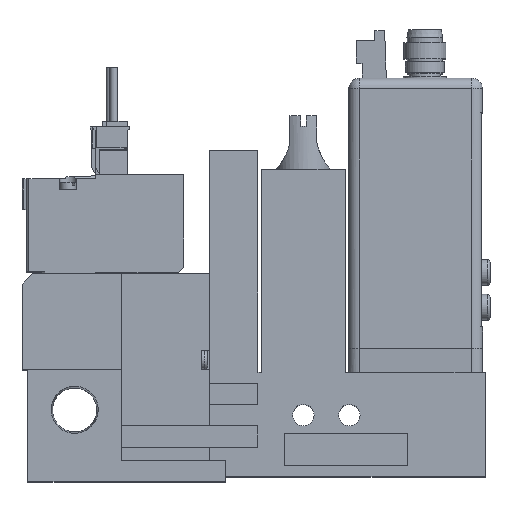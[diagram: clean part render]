
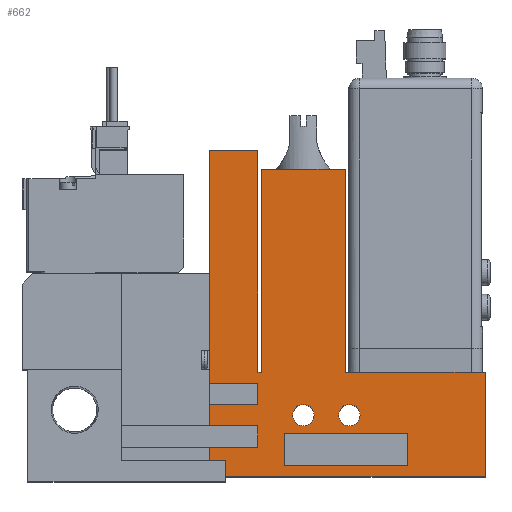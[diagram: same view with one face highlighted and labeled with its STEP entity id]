
A CAD part, top view. The second image highlights one B-rep face of the part: STEP entity #662.
In plain terms, the highlighted planar face has unit normal (0, 0, 1).
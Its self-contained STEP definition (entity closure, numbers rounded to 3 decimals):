
#662=ADVANCED_FACE('',(#2127,#2128,#2129,#2130),#2131,.T.);
#2127=FACE_OUTER_BOUND('',#4844,.T.);
#2128=FACE_BOUND('',#4845,.T.);
#2129=FACE_BOUND('',#4846,.T.);
#2130=FACE_BOUND('',#4847,.T.);
#2131=PLANE('',#4848);
#4844=EDGE_LOOP('',(#9159,#9160,#9161,#9162,#9163,#9164,#9165,#9166,#9167,#9168,#9169,#9170,#9171,#9172,#9173,#9174,#9175,#9176));
#4845=EDGE_LOOP('',(#9177,#9178,#9179,#9180));
#4846=EDGE_LOOP('',(#9181));
#4847=EDGE_LOOP('',(#9182));
#4848=AXIS2_PLACEMENT_3D('',#9183,#9184,#9185);
#9159=ORIENTED_EDGE('',*,*,#17231,.T.);
#9160=ORIENTED_EDGE('',*,*,#17254,.T.);
#9161=ORIENTED_EDGE('',*,*,#17255,.T.);
#9162=ORIENTED_EDGE('',*,*,#17256,.T.);
#9163=ORIENTED_EDGE('',*,*,#17257,.T.);
#9164=ORIENTED_EDGE('',*,*,#17258,.T.);
#9165=ORIENTED_EDGE('',*,*,#17244,.T.);
#9166=ORIENTED_EDGE('',*,*,#17259,.T.);
#9167=ORIENTED_EDGE('',*,*,#17260,.T.);
#9168=ORIENTED_EDGE('',*,*,#17261,.T.);
#9169=ORIENTED_EDGE('',*,*,#17262,.T.);
#9170=ORIENTED_EDGE('',*,*,#17263,.T.);
#9171=ORIENTED_EDGE('',*,*,#17264,.T.);
#9172=ORIENTED_EDGE('',*,*,#17265,.T.);
#9173=ORIENTED_EDGE('',*,*,#17266,.T.);
#9174=ORIENTED_EDGE('',*,*,#17267,.T.);
#9175=ORIENTED_EDGE('',*,*,#17215,.T.);
#9176=ORIENTED_EDGE('',*,*,#17211,.T.);
#9177=ORIENTED_EDGE('',*,*,#17268,.T.);
#9178=ORIENTED_EDGE('',*,*,#17269,.T.);
#9179=ORIENTED_EDGE('',*,*,#17270,.T.);
#9180=ORIENTED_EDGE('',*,*,#17271,.T.);
#9181=ORIENTED_EDGE('',*,*,#17272,.T.);
#9182=ORIENTED_EDGE('',*,*,#17240,.T.);
#9183=CARTESIAN_POINT('',(0.0,0.0,10.0));
#9184=DIRECTION('',(0.0,0.0,1.0));
#9185=DIRECTION('',(1.0,0.0,0.0));
#17211=EDGE_CURVE('',#20915,#20913,#20916,.T.);
#17215=EDGE_CURVE('',#20922,#20915,#20923,.T.);
#17231=EDGE_CURVE('',#20913,#20951,#20953,.T.);
#17240=EDGE_CURVE('',#20969,#20969,#20970,.T.);
#17244=EDGE_CURVE('',#20971,#20976,#20978,.T.);
#17254=EDGE_CURVE('',#20951,#20995,#20996,.T.);
#17255=EDGE_CURVE('',#20995,#20997,#20998,.T.);
#17256=EDGE_CURVE('',#20997,#20999,#21000,.T.);
#17257=EDGE_CURVE('',#20999,#21001,#21002,.T.);
#17258=EDGE_CURVE('',#21001,#20971,#21003,.T.);
#17259=EDGE_CURVE('',#20976,#21004,#21005,.T.);
#17260=EDGE_CURVE('',#21004,#21006,#21007,.T.);
#17261=EDGE_CURVE('',#21006,#21008,#21009,.T.);
#17262=EDGE_CURVE('',#21008,#21010,#21011,.T.);
#17263=EDGE_CURVE('',#21010,#21012,#21013,.T.);
#17264=EDGE_CURVE('',#21012,#21014,#21015,.T.);
#17265=EDGE_CURVE('',#21014,#21016,#21017,.T.);
#17266=EDGE_CURVE('',#21016,#21018,#21019,.T.);
#17267=EDGE_CURVE('',#21018,#20922,#21020,.T.);
#17268=EDGE_CURVE('',#21021,#21022,#21023,.T.);
#17269=EDGE_CURVE('',#21022,#21024,#21025,.T.);
#17270=EDGE_CURVE('',#21024,#21026,#21027,.T.);
#17271=EDGE_CURVE('',#21026,#21021,#21028,.T.);
#17272=EDGE_CURVE('',#21029,#21029,#21030,.T.);
#20913=VERTEX_POINT('',#26533);
#20915=VERTEX_POINT('',#26536);
#20916=LINE('',#26537,#26538);
#20922=VERTEX_POINT('',#26546);
#20923=LINE('',#26547,#26548);
#20951=VERTEX_POINT('',#26590);
#20953=LINE('',#26593,#26594);
#20969=VERTEX_POINT('',#26615);
#20970=CIRCLE('',#26616,2.0);
#20971=VERTEX_POINT('',#26617);
#20976=VERTEX_POINT('',#26624);
#20978=LINE('',#26627,#26628);
#20995=VERTEX_POINT('',#26651);
#20996=LINE('',#26652,#26653);
#20997=VERTEX_POINT('',#26654);
#20998=LINE('',#26655,#26656);
#20999=VERTEX_POINT('',#26657);
#21000=LINE('',#26658,#26659);
#21001=VERTEX_POINT('',#26660);
#21002=LINE('',#26661,#26662);
#21003=LINE('',#26663,#26664);
#21004=VERTEX_POINT('',#26665);
#21005=LINE('',#26666,#26667);
#21006=VERTEX_POINT('',#26668);
#21007=LINE('',#26669,#26670);
#21008=VERTEX_POINT('',#26671);
#21009=LINE('',#26672,#26673);
#21010=VERTEX_POINT('',#26674);
#21011=LINE('',#26675,#26676);
#21012=VERTEX_POINT('',#26677);
#21013=LINE('',#26678,#26679);
#21014=VERTEX_POINT('',#26680);
#21015=LINE('',#26681,#26682);
#21016=VERTEX_POINT('',#26683);
#21017=LINE('',#26684,#26685);
#21018=VERTEX_POINT('',#26686);
#21019=LINE('',#26687,#26688);
#21020=LINE('',#26689,#26690);
#21021=VERTEX_POINT('',#26691);
#21022=VERTEX_POINT('',#26692);
#21023=LINE('',#26693,#26694);
#21024=VERTEX_POINT('',#26695);
#21025=LINE('',#26696,#26697);
#21026=VERTEX_POINT('',#26698);
#21027=LINE('',#26699,#26700);
#21028=LINE('',#26701,#26702);
#21029=VERTEX_POINT('',#26703);
#21030=CIRCLE('',#26704,2.0);
#26533=CARTESIAN_POINT('',(35.1,61.0,10.0));
#26536=CARTESIAN_POINT('',(44.1,61.0,10.0));
#26537=CARTESIAN_POINT('',(44.1,61.0,10.0));
#26538=VECTOR('',#33399,1.0);
#26546=CARTESIAN_POINT('',(44.1,19.5,10.0));
#26547=CARTESIAN_POINT('',(44.1,19.5,10.0));
#26548=VECTOR('',#33405,1.0);
#26590=CARTESIAN_POINT('',(35.1,17.5,10.0));
#26593=CARTESIAN_POINT('',(35.1,61.0,10.0));
#26594=VECTOR('',#33421,1.0);
#26615=CARTESIAN_POINT('',(63.2,11.5,10.0));
#26616=AXIS2_PLACEMENT_3D('',#33436,#33437,#33438);
#26617=CARTESIAN_POINT('',(44.1,9.5,10.0));
#26624=CARTESIAN_POINT('',(44.1,5.5,10.0));
#26627=CARTESIAN_POINT('',(44.1,0.0,10.0));
#26628=VECTOR('',#33442,1.0);
#26651=CARTESIAN_POINT('',(44.1,17.5,10.0));
#26652=CARTESIAN_POINT('',(0.0,17.5,10.0));
#26653=VECTOR('',#33458,1.0);
#26654=CARTESIAN_POINT('',(44.1,13.5,10.0));
#26655=CARTESIAN_POINT('',(44.1,0.0,10.0));
#26656=VECTOR('',#33459,1.0);
#26657=CARTESIAN_POINT('',(35.1,13.5,10.0));
#26658=CARTESIAN_POINT('',(0.0,13.5,10.0));
#26659=VECTOR('',#33460,1.0);
#26660=CARTESIAN_POINT('',(35.1,9.5,10.0));
#26661=CARTESIAN_POINT('',(35.1,0.0,10.0));
#26662=VECTOR('',#33461,1.0);
#26663=CARTESIAN_POINT('',(0.0,9.5,10.0));
#26664=VECTOR('',#33462,1.0);
#26665=CARTESIAN_POINT('',(35.1,5.5,10.0));
#26666=CARTESIAN_POINT('',(0.0,5.5,10.0));
#26667=VECTOR('',#33463,1.0);
#26668=CARTESIAN_POINT('',(35.1,0.0,10.0));
#26669=CARTESIAN_POINT('',(35.1,0.0,10.0));
#26670=VECTOR('',#33464,1.0);
#26671=CARTESIAN_POINT('',(86.6,0.0,10.0));
#26672=CARTESIAN_POINT('',(18.6,0.0,10.0));
#26673=VECTOR('',#33465,1.0);
#26674=CARTESIAN_POINT('',(86.6,19.5,10.0));
#26675=CARTESIAN_POINT('',(86.6,0.0,10.0));
#26676=VECTOR('',#33466,1.0);
#26677=CARTESIAN_POINT('',(60.45,19.5,10.0));
#26678=CARTESIAN_POINT('',(86.6,19.5,10.0));
#26679=VECTOR('',#33467,1.0);
#26680=CARTESIAN_POINT('',(60.45,57.5,10.0));
#26681=CARTESIAN_POINT('',(60.45,19.5,10.0));
#26682=VECTOR('',#33468,1.0);
#26683=CARTESIAN_POINT('',(44.75,57.5,10.0));
#26684=CARTESIAN_POINT('',(60.45,57.5,10.0));
#26685=VECTOR('',#33469,1.0);
#26686=CARTESIAN_POINT('',(44.75,19.5,10.0));
#26687=CARTESIAN_POINT('',(44.75,57.5,10.0));
#26688=VECTOR('',#33470,1.0);
#26689=CARTESIAN_POINT('',(44.75,19.5,10.0));
#26690=VECTOR('',#33471,1.0);
#26691=CARTESIAN_POINT('',(49.1,2.0,10.0));
#26692=CARTESIAN_POINT('',(49.1,8.0,10.0));
#26693=CARTESIAN_POINT('',(49.1,0.0,10.0));
#26694=VECTOR('',#33472,1.0);
#26695=CARTESIAN_POINT('',(72.1,8.0,10.0));
#26696=CARTESIAN_POINT('',(0.0,8.0,10.0));
#26697=VECTOR('',#33473,1.0);
#26698=CARTESIAN_POINT('',(72.1,2.0,10.0));
#26699=CARTESIAN_POINT('',(72.1,0.0,10.0));
#26700=VECTOR('',#33474,1.0);
#26701=CARTESIAN_POINT('',(0.0,2.0,10.0));
#26702=VECTOR('',#33475,1.0);
#26703=CARTESIAN_POINT('',(54.6,11.5,10.0));
#26704=AXIS2_PLACEMENT_3D('',#33476,#33477,#33478);
#33399=DIRECTION('',(-1.0,0.0,0.0));
#33405=DIRECTION('',(0.0,1.0,0.0));
#33421=DIRECTION('',(0.0,-1.0,0.0));
#33436=CARTESIAN_POINT('',(61.2,11.5,10.0));
#33437=DIRECTION('',(0.0,0.0,-1.0));
#33438=DIRECTION('',(1.0,0.0,0.0));
#33442=DIRECTION('',(0.0,-1.0,0.0));
#33458=DIRECTION('',(1.0,0.0,0.0));
#33459=DIRECTION('',(0.0,-1.0,0.0));
#33460=DIRECTION('',(-1.0,0.0,0.0));
#33461=DIRECTION('',(0.0,-1.0,0.0));
#33462=DIRECTION('',(1.0,0.0,0.0));
#33463=DIRECTION('',(-1.0,0.0,0.0));
#33464=DIRECTION('',(0.0,-1.0,0.0));
#33465=DIRECTION('',(1.0,0.0,0.0));
#33466=DIRECTION('',(0.0,1.0,0.0));
#33467=DIRECTION('',(-1.0,0.0,0.0));
#33468=DIRECTION('',(0.0,1.0,0.0));
#33469=DIRECTION('',(-1.0,0.0,0.0));
#33470=DIRECTION('',(0.0,-1.0,0.0));
#33471=DIRECTION('',(-1.0,0.0,0.0));
#33472=DIRECTION('',(0.0,1.0,0.0));
#33473=DIRECTION('',(1.0,0.0,0.0));
#33474=DIRECTION('',(0.0,-1.0,0.0));
#33475=DIRECTION('',(-1.0,0.0,0.0));
#33476=CARTESIAN_POINT('',(52.6,11.5,10.0));
#33477=DIRECTION('',(0.0,0.0,-1.0));
#33478=DIRECTION('',(1.0,0.0,0.0));
